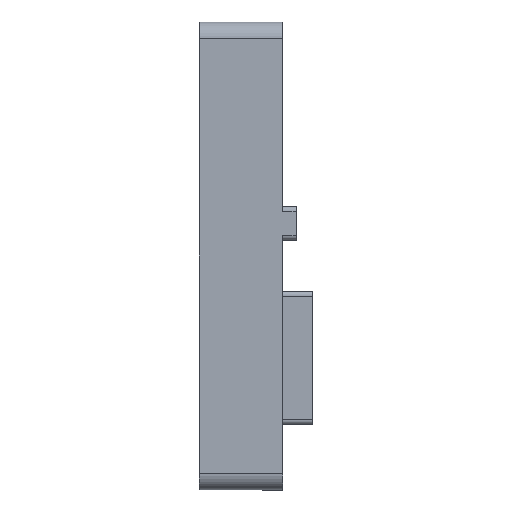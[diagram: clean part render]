
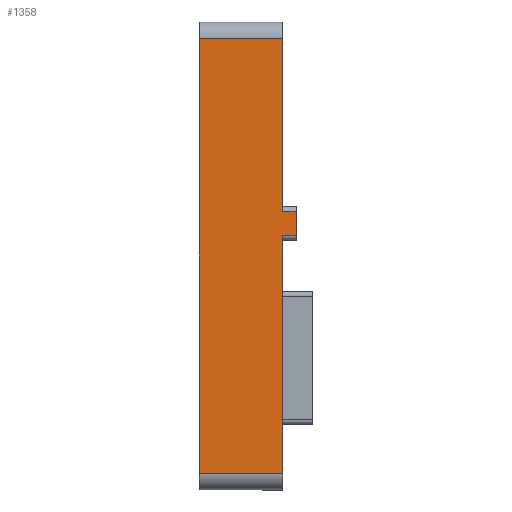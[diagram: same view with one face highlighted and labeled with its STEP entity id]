
A CAD part, left-side view. The second image highlights one B-rep face of the part: STEP entity #1358.
In plain terms, the highlighted planar face has unit normal (-1, 0, 0).
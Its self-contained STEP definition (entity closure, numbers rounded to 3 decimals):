
#37=PLANE('',#1479);
#79=FACE_OUTER_BOUND('',#154,.T.);
#154=EDGE_LOOP('',(#978,#979,#980,#981,#982,#983,#984,#985));
#232=LINE('',#2023,#372);
#234=LINE('',#2029,#374);
#238=LINE('',#2045,#378);
#262=LINE('',#2143,#402);
#263=LINE('',#2144,#403);
#264=LINE('',#2146,#404);
#265=LINE('',#2148,#405);
#266=LINE('',#2149,#406);
#372=VECTOR('',#1598,10.);
#374=VECTOR('',#1604,10.);
#378=VECTOR('',#1616,10.);
#402=VECTOR('',#1692,10.);
#403=VECTOR('',#1693,10.);
#404=VECTOR('',#1694,10.);
#405=VECTOR('',#1695,10.);
#406=VECTOR('',#1696,10.);
#577=VERTEX_POINT('',#2020);
#578=VERTEX_POINT('',#2022);
#580=VERTEX_POINT('',#2028);
#587=VERTEX_POINT('',#2042);
#588=VERTEX_POINT('',#2044);
#636=VERTEX_POINT('',#2142);
#637=VERTEX_POINT('',#2145);
#638=VERTEX_POINT('',#2147);
#713=EDGE_CURVE('',#577,#578,#232,.T.);
#716=EDGE_CURVE('',#580,#578,#234,.T.);
#724=EDGE_CURVE('',#588,#587,#238,.T.);
#773=EDGE_CURVE('',#577,#636,#262,.T.);
#774=EDGE_CURVE('',#588,#636,#263,.T.);
#775=EDGE_CURVE('',#637,#587,#264,.T.);
#776=EDGE_CURVE('',#637,#638,#265,.T.);
#777=EDGE_CURVE('',#580,#638,#266,.T.);
#978=ORIENTED_EDGE('',*,*,#713,.F.);
#979=ORIENTED_EDGE('',*,*,#773,.T.);
#980=ORIENTED_EDGE('',*,*,#774,.F.);
#981=ORIENTED_EDGE('',*,*,#724,.T.);
#982=ORIENTED_EDGE('',*,*,#775,.F.);
#983=ORIENTED_EDGE('',*,*,#776,.T.);
#984=ORIENTED_EDGE('',*,*,#777,.F.);
#985=ORIENTED_EDGE('',*,*,#716,.T.);
#1358=ADVANCED_FACE('',(#79),#37,.F.);
#1479=AXIS2_PLACEMENT_3D('',#2141,#1690,#1691);
#1598=DIRECTION('',(0.,-1.,0.));
#1604=DIRECTION('',(0.,0.,1.));
#1616=DIRECTION('',(0.,0.,1.));
#1690=DIRECTION('center_axis',(1.,0.,0.));
#1691=DIRECTION('ref_axis',(0.,0.,
-1.));
#1692=DIRECTION('',(0.,0.,-1.));
#1693=DIRECTION('',(0.,1.,0.));
#1694=DIRECTION('',(0.,1.,0.));
#1695=DIRECTION('',(0.,0.,1.));
#1696=DIRECTION('',(0.,-1.,0.));
#2020=CARTESIAN_POINT('',(-42.,0.,27.));
#2022=CARTESIAN_POINT('',(-42.,-5.,27.));
#2023=CARTESIAN_POINT('',(-42.,-3.4,27.));
#2028=CARTESIAN_POINT('',(-42.,-5.,16.65));
#2029=CARTESIAN_POINT('',(-42.,-5.,14.));
#2042=CARTESIAN_POINT('',(-42.,-5.,15.25));
#2044=CARTESIAN_POINT('',(-42.,-5.,1.));
#2045=CARTESIAN_POINT('',(-42.,-5.,14.));
#2141=CARTESIAN_POINT('Origin',(-42.,-6.8,27.4));
#2142=CARTESIAN_POINT('',(-42.,0.,1.));
#2143=CARTESIAN_POINT('',(-42.,0.,14.));
#2144=CARTESIAN_POINT('',(-42.,0.,1.));
#2145=CARTESIAN_POINT('',(-42.,-5.8,15.25));
#2146=CARTESIAN_POINT('',(-42.,-5.9,15.25));
#2147=CARTESIAN_POINT('',(-42.,-5.8,16.65));
#2148=CARTESIAN_POINT('',(-42.,-5.8,14.975));
#2149=CARTESIAN_POINT('',(-42.,-5.9,16.65));
